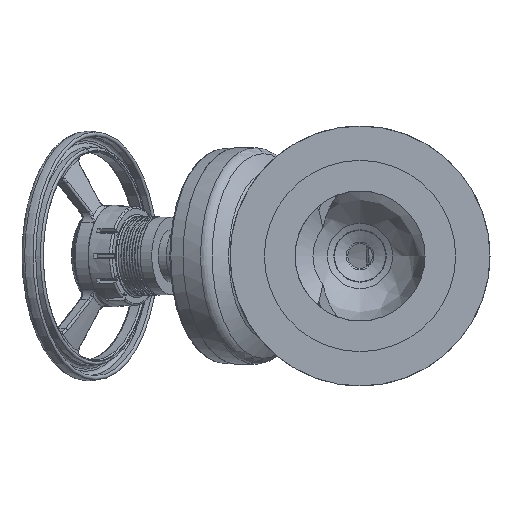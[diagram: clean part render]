
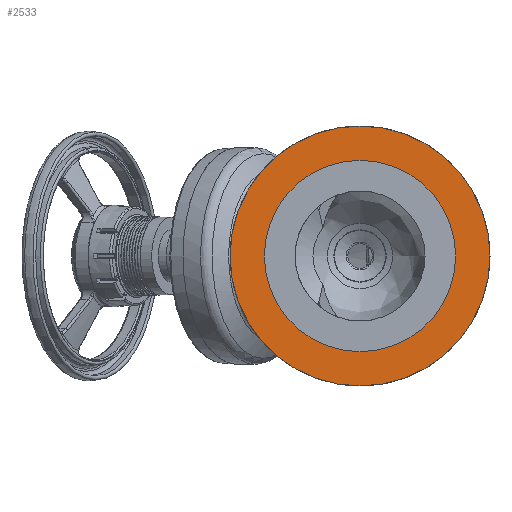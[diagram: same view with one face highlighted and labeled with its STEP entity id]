
A CAD part, left-side view. The second image highlights one B-rep face of the part: STEP entity #2533.
In plain terms, the highlighted planar face has unit normal (-1, 0, 0).
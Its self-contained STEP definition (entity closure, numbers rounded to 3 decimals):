
#2502=CARTESIAN_POINT('',(-397.,-92.,0.0));
#2503=VERTEX_POINT('',#2502);
#2504=CARTESIAN_POINT('',(-397.,0.,0.0));
#2505=DIRECTION('',(-1.0,0.0,0.0));
#2506=DIRECTION('',(0.0,-1.0,0.0));
#2507=AXIS2_PLACEMENT_3D('',#2504,#2505,#2506);
#2508=CIRCLE('',#2507,92.);
#2509=EDGE_CURVE('',#2503,#2503,#2508,.T.);
#2514=CARTESIAN_POINT('',(-397.,-108.5,0.0));
#2515=DIRECTION('',(-1.0,0.0,0.0));
#2516=DIRECTION('',(0.0,0.0,1.0));
#2517=AXIS2_PLACEMENT_3D('',#2514,#2515,#2516);
#2518=PLANE('',#2517);
#2519=CARTESIAN_POINT('',(-397.,-125.,0.0));
#2520=VERTEX_POINT('',#2519);
#2521=CARTESIAN_POINT('',(-397.,0.,0.0));
#2522=DIRECTION('',(-1.0,0.0,0.0));
#2523=DIRECTION('',(0.0,-1.0,0.0));
#2524=AXIS2_PLACEMENT_3D('',#2521,#2522,#2523);
#2525=CIRCLE('',#2524,125.);
#2526=EDGE_CURVE('',#2520,#2520,#2525,.T.);
#2527=ORIENTED_EDGE('',*,*,#2526,.T.);
#2528=EDGE_LOOP('',(#2527));
#2529=FACE_OUTER_BOUND('',#2528,.T.);
#2530=ORIENTED_EDGE('',*,*,#2509,.F.);
#2531=EDGE_LOOP('',(#2530));
#2532=FACE_BOUND('',#2531,.T.);
#2533=ADVANCED_FACE('',(#2529,#2532),#2518,.T.);
